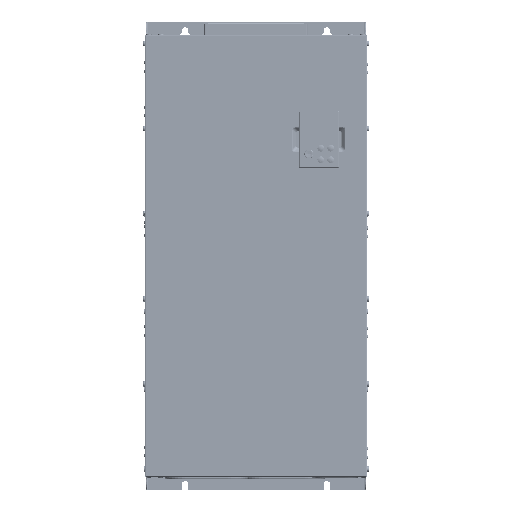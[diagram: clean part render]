
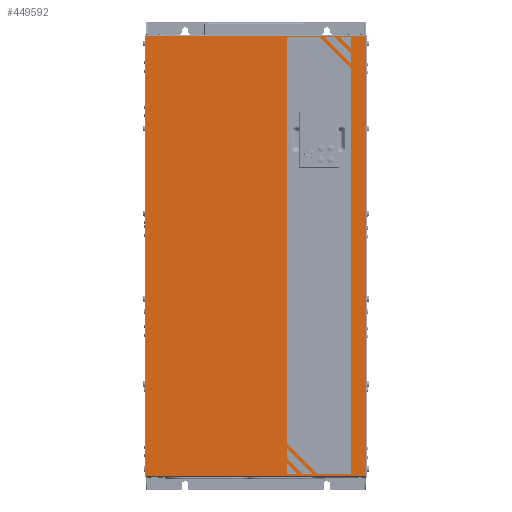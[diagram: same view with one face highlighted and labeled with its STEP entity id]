
A CAD part, top view. The second image highlights one B-rep face of the part: STEP entity #449592.
In plain terms, the highlighted planar face has unit normal (0, 0, 1).
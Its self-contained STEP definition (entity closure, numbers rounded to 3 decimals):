
#445986=DIRECTION('',(0.,-1.,0.));
#445987=VECTOR('',#445986,621.);
#445988=CARTESIAN_POINT('',(155.3,0.5,275.));
#445989=LINE('',#445988,#445987);
#446265=DIRECTION('',(0.,-1.,0.));
#446266=VECTOR('',#446265,621.);
#446267=CARTESIAN_POINT('',(-155.3,0.5,275.));
#446268=LINE('',#446267,#446266);
#446930=DIRECTION('',(-1.,0.,0.));
#446931=VECTOR('',#446930,310.6);
#446932=CARTESIAN_POINT('',(155.3,0.5,275.));
#446933=LINE('',#446932,#446931);
#446937=DIRECTION('',(-1.,0.,0.));
#446938=VECTOR('',#446937,310.6);
#446939=CARTESIAN_POINT('',(155.3,-620.5,275.));
#446940=LINE('',#446939,#446938);
#446944=DIRECTION('',(0.,-1.,0.));
#446945=VECTOR('',#446944,16.);
#446946=CARTESIAN_POINT('',(43.5,-602.5,275.));
#446947=LINE('',#446946,#446945);
#446951=DIRECTION('',(1.,0.,0.));
#446952=VECTOR('',#446951,16.);
#446953=CARTESIAN_POINT('',(43.5,-618.5,275.));
#446954=LINE('',#446953,#446952);
#446958=DIRECTION('',(-0.707,0.707,0.));
#446959=VECTOR('',#446958,22.627);
#446960=CARTESIAN_POINT('',(59.5,-618.5,275.));
#446961=LINE('',#446960,#446959);
#446965=DIRECTION('',(0.,-1.,0.));
#446966=VECTOR('',#446965,16.);
#446967=CARTESIAN_POINT('',(133.5,-1.5,275.));
#446968=LINE('',#446967,#446966);
#446972=DIRECTION('',(-1.,0.,0.));
#446973=VECTOR('',#446972,16.);
#446974=CARTESIAN_POINT('',(133.5,-1.5,275.));
#446975=LINE('',#446974,#446973);
#446979=DIRECTION('',(0.707,-0.707,0.));
#446980=VECTOR('',#446979,22.627);
#446981=CARTESIAN_POINT('',(117.5,-1.5,275.));
#446982=LINE('',#446981,#446980);
#446986=DIRECTION('',(0.,-1.,0.));
#446987=VECTOR('',#446986,572.716);
#446988=CARTESIAN_POINT('',(43.5,-1.5,275.));
#446989=LINE('',#446988,#446987);
#446993=DIRECTION('',(-0.707,0.707,0.));
#446994=VECTOR('',#446993,62.627);
#446995=CARTESIAN_POINT('',(87.784,-618.5,275.));
#446996=LINE('',#446995,#446994);
#447000=DIRECTION('',(1.,0.,0.));
#447001=VECTOR('',#447000,45.716);
#447002=CARTESIAN_POINT('',(87.784,-618.5,275.));
#447003=LINE('',#447002,#447001);
#447007=DIRECTION('',(0.,1.,0.));
#447008=VECTOR('',#447007,572.716);
#447009=CARTESIAN_POINT('',(133.5,-618.5,275.));
#447010=LINE('',#447009,#447008);
#447014=DIRECTION('',(0.707,-0.707,0.));
#447015=VECTOR('',#447014,62.627);
#447016=CARTESIAN_POINT('',(89.216,-1.5,275.));
#447017=LINE('',#447016,#447015);
#447021=DIRECTION('',(-1.,0.,0.));
#447022=VECTOR('',#447021,45.716);
#447023=CARTESIAN_POINT('',(89.216,-1.5,275.));
#447024=LINE('',#447023,#447022);
#447028=DIRECTION('',(0.707,-0.707,0.));
#447029=VECTOR('',#447028,52.627);
#447030=CARTESIAN_POINT('',(96.287,-1.5,275.));
#447031=LINE('',#447030,#447029);
#447035=DIRECTION('',(0.,1.,0.));
#447036=VECTOR('',#447035,14.142);
#447037=CARTESIAN_POINT('',(133.5,-38.713,275.));
#447038=LINE('',#447037,#447036);
#447042=DIRECTION('',(0.707,-0.707,0.));
#447043=VECTOR('',#447042,32.627);
#447044=CARTESIAN_POINT('',(110.429,-1.5,275.));
#447045=LINE('',#447044,#447043);
#447049=DIRECTION('',(-1.,0.,0.));
#447050=VECTOR('',#447049,14.142);
#447051=CARTESIAN_POINT('',(110.429,-1.5,275.));
#447052=LINE('',#447051,#447050);
#447056=DIRECTION('',(-0.707,0.707,0.));
#447057=VECTOR('',#447056,52.627);
#447058=CARTESIAN_POINT('',(80.713,-618.5,275.));
#447059=LINE('',#447058,#447057);
#447063=DIRECTION('',(0.,-1.,0.));
#447064=VECTOR('',#447063,14.142);
#447065=CARTESIAN_POINT('',(43.5,-581.287,275.));
#447066=LINE('',#447065,#447064);
#447070=DIRECTION('',(-0.707,0.707,0.));
#447071=VECTOR('',#447070,32.627);
#447072=CARTESIAN_POINT('',(66.571,-618.5,275.));
#447073=LINE('',#447072,#447071);
#447077=DIRECTION('',(1.,0.,0.));
#447078=VECTOR('',#447077,14.142);
#447079=CARTESIAN_POINT('',(66.571,-618.5,275.));
#447080=LINE('',#447079,#447078);
#447985=CARTESIAN_POINT('',(155.3,-620.5,275.));
#447987=VERTEX_POINT('',#447985);
#447989=CARTESIAN_POINT('',(-155.3,-620.5,275.));
#447991=VERTEX_POINT('',#447989);
#447992=CARTESIAN_POINT('',(-155.3,0.5,275.));
#447993=VERTEX_POINT('',#447992);
#447994=CARTESIAN_POINT('',(155.3,0.5,275.));
#447995=VERTEX_POINT('',#447994);
#448056=CARTESIAN_POINT('',(43.5,-602.5,275.));
#448057=CARTESIAN_POINT('',(43.5,-618.5,275.));
#448058=VERTEX_POINT('',#448056);
#448059=VERTEX_POINT('',#448057);
#448060=CARTESIAN_POINT('',(133.5,-1.5,275.));
#448061=CARTESIAN_POINT('',(133.5,-17.5,275.));
#448062=VERTEX_POINT('',#448060);
#448063=VERTEX_POINT('',#448061);
#448264=CARTESIAN_POINT('',(43.5,-1.5,275.));
#448265=CARTESIAN_POINT('',(43.5,-574.216,275.));
#448266=VERTEX_POINT('',#448264);
#448267=VERTEX_POINT('',#448265);
#448268=CARTESIAN_POINT('',(87.784,-618.5,275.));
#448269=VERTEX_POINT('',#448268);
#448270=CARTESIAN_POINT('',(133.5,-618.5,275.));
#448271=CARTESIAN_POINT('',(133.5,-45.784,275.));
#448272=VERTEX_POINT('',#448270);
#448273=VERTEX_POINT('',#448271);
#448274=CARTESIAN_POINT('',(89.216,-1.5,275.));
#448275=VERTEX_POINT('',#448274);
#448276=CARTESIAN_POINT('',(96.287,-1.5,275.));
#448277=CARTESIAN_POINT('',(133.5,-38.713,275.));
#448278=VERTEX_POINT('',#448276);
#448279=VERTEX_POINT('',#448277);
#448280=CARTESIAN_POINT('',(133.5,-24.571,275.));
#448281=VERTEX_POINT('',#448280);
#448282=CARTESIAN_POINT('',(110.429,-1.5,275.));
#448283=VERTEX_POINT('',#448282);
#448284=CARTESIAN_POINT('',(117.5,-1.5,275.));
#448285=VERTEX_POINT('',#448284);
#448286=CARTESIAN_POINT('',(80.713,-618.5,275.));
#448287=CARTESIAN_POINT('',(43.5,-581.287,275.));
#448288=VERTEX_POINT('',#448286);
#448289=VERTEX_POINT('',#448287);
#448290=CARTESIAN_POINT('',(43.5,-595.429,275.));
#448291=VERTEX_POINT('',#448290);
#448292=CARTESIAN_POINT('',(66.571,-618.5,275.));
#448293=VERTEX_POINT('',#448292);
#448294=CARTESIAN_POINT('',(59.5,-618.5,275.));
#448295=VERTEX_POINT('',#448294);
#449530=CARTESIAN_POINT('',(-156.5,1.7,275.));
#449531=DIRECTION('',(0.,0.,1.));
#449532=DIRECTION('',(0.,-1.,0.));
#449533=AXIS2_PLACEMENT_3D('',#449530,#449531,#449532);
#449534=PLANE('',#449533);
#449535=ORIENTED_EDGE('',*,*,#449522,.F.);
#449536=ORIENTED_EDGE('',*,*,#448644,.T.);
#449538=ORIENTED_EDGE('',*,*,#449537,.T.);
#449539=ORIENTED_EDGE('',*,*,#448936,.F.);
#449540=EDGE_LOOP('',(#449535,#449536,#449538,#449539));
#449541=FACE_OUTER_BOUND('',#449540,.F.);
#449543=ORIENTED_EDGE('',*,*,#449542,.T.);
#449545=ORIENTED_EDGE('',*,*,#449544,.T.);
#449547=ORIENTED_EDGE('',*,*,#449546,.T.);
#449548=EDGE_LOOP('',(#449543,#449545,#449547));
#449549=FACE_BOUND('',#449548,.F.);
#449551=ORIENTED_EDGE('',*,*,#449550,.F.);
#449553=ORIENTED_EDGE('',*,*,#449552,.T.);
#449555=ORIENTED_EDGE('',*,*,#449554,.T.);
#449556=EDGE_LOOP('',(#449551,#449553,#449555));
#449557=FACE_BOUND('',#449556,.F.);
#449559=ORIENTED_EDGE('',*,*,#449558,.T.);
#449561=ORIENTED_EDGE('',*,*,#449560,.F.);
#449563=ORIENTED_EDGE('',*,*,#449562,.T.);
#449565=ORIENTED_EDGE('',*,*,#449564,.T.);
#449567=ORIENTED_EDGE('',*,*,#449566,.F.);
#449569=ORIENTED_EDGE('',*,*,#449568,.T.);
#449570=EDGE_LOOP('',(#449559,#449561,#449563,#449565,#449567,#449569));
#449571=FACE_BOUND('',#449570,.F.);
#449573=ORIENTED_EDGE('',*,*,#449572,.T.);
#449575=ORIENTED_EDGE('',*,*,#449574,.T.);
#449577=ORIENTED_EDGE('',*,*,#449576,.F.);
#449579=ORIENTED_EDGE('',*,*,#449578,.T.);
#449580=EDGE_LOOP('',(#449573,#449575,#449577,#449579));
#449581=FACE_BOUND('',#449580,.F.);
#449583=ORIENTED_EDGE('',*,*,#449582,.T.);
#449585=ORIENTED_EDGE('',*,*,#449584,.T.);
#449587=ORIENTED_EDGE('',*,*,#449586,.F.);
#449589=ORIENTED_EDGE('',*,*,#449588,.T.);
#449590=EDGE_LOOP('',(#449583,#449585,#449587,#449589));
#449591=FACE_BOUND('',#449590,.F.);
#449592=ADVANCED_FACE('',(#449541,#449549,#449557,#449571,#449581,#449591),
#449534,.T.);
#448644=EDGE_CURVE('',#447995,#447987,#445989,.T.);
#448936=EDGE_CURVE('',#447993,#447991,#446268,.T.);
#449522=EDGE_CURVE('',#447995,#447993,#446933,.T.);
#449537=EDGE_CURVE('',#447987,#447991,#446940,.T.);
#449542=EDGE_CURVE('',#448058,#448059,#446947,.T.);
#449544=EDGE_CURVE('',#448059,#448295,#446954,.T.);
#449546=EDGE_CURVE('',#448295,#448058,#446961,.T.);
#449550=EDGE_CURVE('',#448062,#448063,#446968,.T.);
#449552=EDGE_CURVE('',#448062,#448285,#446975,.T.);
#449554=EDGE_CURVE('',#448285,#448063,#446982,.T.);
#449558=EDGE_CURVE('',#448266,#448267,#446989,.T.);
#449560=EDGE_CURVE('',#448269,#448267,#446996,.T.);
#449562=EDGE_CURVE('',#448269,#448272,#447003,.T.);
#449564=EDGE_CURVE('',#448272,#448273,#447010,.T.);
#449566=EDGE_CURVE('',#448275,#448273,#447017,.T.);
#449568=EDGE_CURVE('',#448275,#448266,#447024,.T.);
#449572=EDGE_CURVE('',#448278,#448279,#447031,.T.);
#449574=EDGE_CURVE('',#448279,#448281,#447038,.T.);
#449576=EDGE_CURVE('',#448283,#448281,#447045,.T.);
#449578=EDGE_CURVE('',#448283,#448278,#447052,.T.);
#449582=EDGE_CURVE('',#448288,#448289,#447059,.T.);
#449584=EDGE_CURVE('',#448289,#448291,#447066,.T.);
#449586=EDGE_CURVE('',#448293,#448291,#447073,.T.);
#449588=EDGE_CURVE('',#448293,#448288,#447080,.T.);
